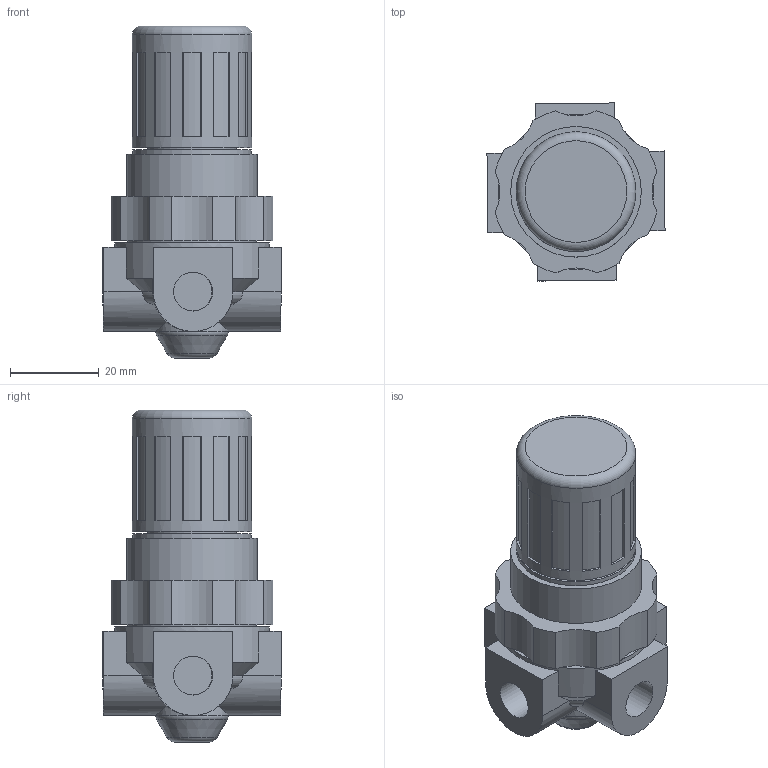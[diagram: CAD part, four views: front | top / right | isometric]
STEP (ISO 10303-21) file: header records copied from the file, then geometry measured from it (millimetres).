
FILE_DESCRIPTION((''),'2;1');
FILE_NAME('F:\AirCom-Produktdokumentation\Druckregler\R310\CAD\CAD AirCom\3D\B-R310-01.stp','2009-12-09T14:54:08',('Frank Schroers'),(''),'Autodesk Inventor 2008','Autodesk Inventor 2008','');
FILE_SCHEMA(('AUTOMOTIVE_DESIGN { 1 0 10303 214 1 1 1 1 }'));
Length unit declared in the file: millimetre
Products named in the file (3): B-R310-01; B-R310-01x-Haube; B-R310-01x-Gehaeuse
Assembly tree (2 placements, depth 2):
  B-R310-01
    B-R310-01x-Haube
    B-R310-01x-Gehaeuse
Bounding box: 40.23 x 40.23 x 75 mm (x, y, z)
Volume: 52336.3 mm3; surface area: 13739.7 mm2
Topology: 2 solids, 2 shells, 143 faces, 335 edges, 220 vertices
Faces by surface type: plane 81, cylinder 50, torus 7, cone 5
Full cylindrical faces by diameter (mm): 8.8 x4, 9 x4, 20 x1, 26.8 x1, 27 x1, 29 x1, 29.5 x1, 35 x1
Entity records: 4221 total; most frequent: CARTESIAN_POINT 886, DIRECTION 714, ORIENTED_EDGE 622, EDGE_CURVE 311, AXIS2_PLACEMENT_3D 283, VERTEX_POINT 215, EDGE_LOOP 186, VECTOR 148
